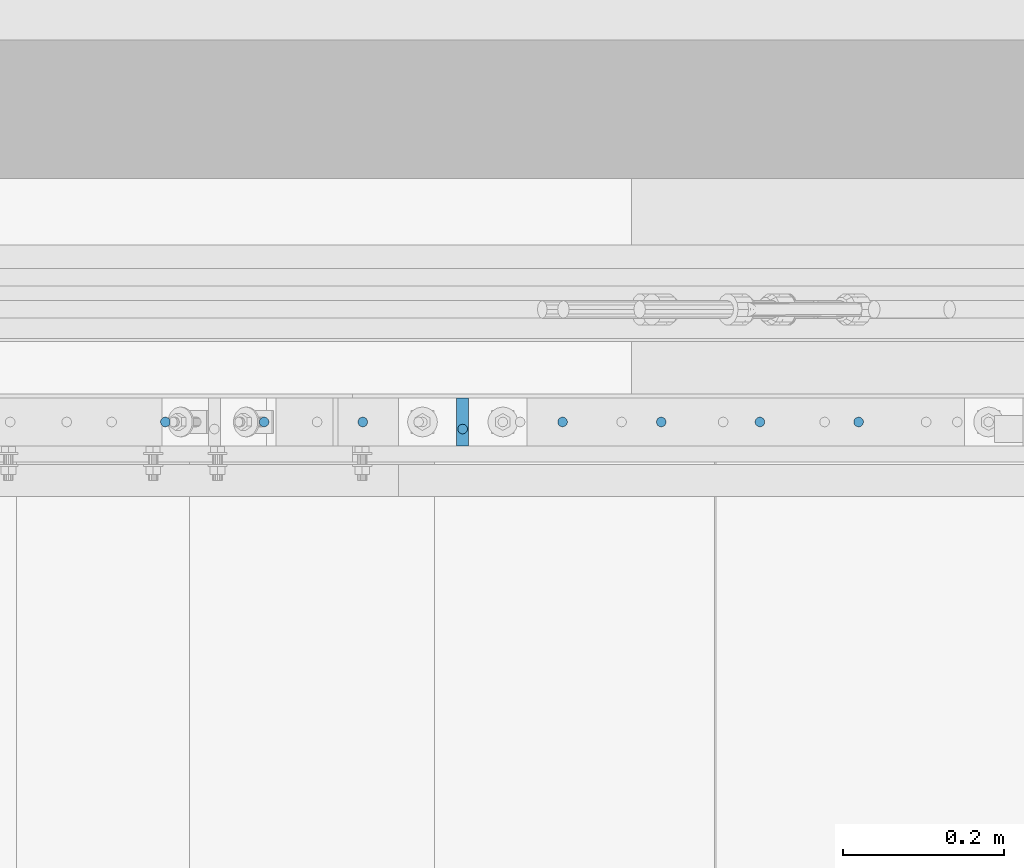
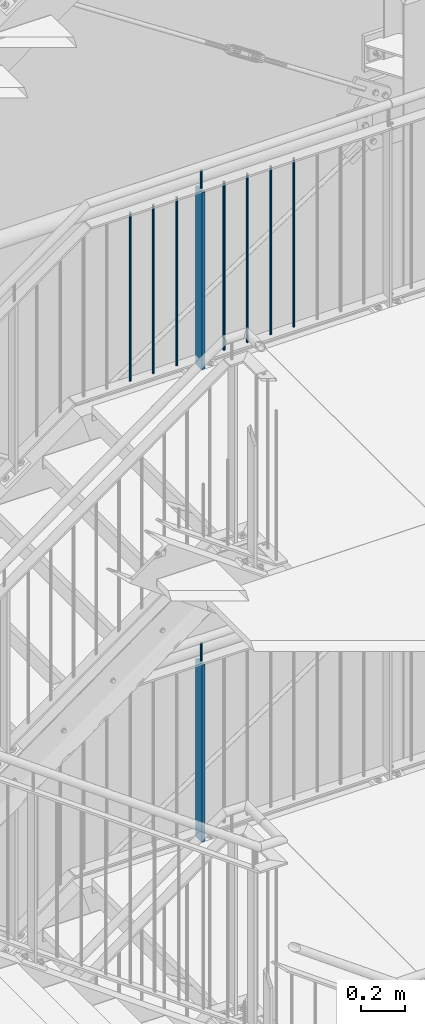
# One storey, part 109 of 831: 11 columns.
"""IFC2X3 building model written with IfcOpenShell, lengths in millimetres."""

from ifc_helpers import new_model, entity, si_unit, converted_unit, frame, origin, origin_with_axes, origin_2d, place, context, project, spatial, rectangle, circle, extrude, clip, halfspace, material, element, save


model = new_model("IFC2X3")

# Units and contexts
model_context = context("Model", 3, precision=1e-09, world=origin_with_axes())
ifc_project = project(units=[si_unit("LENGTHUNIT", "METRE", prefix="MILLI"), si_unit("AREAUNIT", "SQUARE_METRE"), si_unit("VOLUMEUNIT", "CUBIC_METRE"), converted_unit("PLANEANGLEUNIT", "DEGREE", entity("IfcPlaneAngleMeasure", 0.01745329), si_unit("PLANEANGLEUNIT", "RADIAN"), dimensions=[0, 0, 0, 0, 0, 0, 0])], contexts=[model_context])

# Site, building, storey
site_placement = place(None, origin_with_axes())
site = spatial("IfcSite", under=ifc_project, at=site_placement, Name="Site", CompositionType="ELEMENT")
building_placement = place(site_placement, origin_with_axes())
building = spatial("IfcBuilding", under=site, at=building_placement, Name="Struktur 1", CompositionType="ELEMENT")
storey_placement = place(building_placement, origin_with_axes())
storey = spatial("IfcBuildingStorey", under=building, at=storey_placement, Name="Default Storey", CompositionType="ELEMENT", Elevation=0.0)

# Columns
ifc_material = material(Name="S235JR")
column_1_placement = place(None, frame((7656.713831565, 7347.936971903, 9763.285281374), z_axis=(0.0, 0.0, 1.0), x_axis=(0.0, -1.0, 0.0)))
element("IfcColumn", 1, at=column_1_placement, inside=storey, material=ifc_material, Name="Bar#3", ObjectType="Bar#3", context=model_context, shape_type="Clipping", body=[
    clip(clip(extrude(circle(Radius=6.0, at=origin_2d()), origin(), (0.0, 0.0, -1.0), 116.970562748), halfspace(frame((7347.936971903, -7656.713831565, -8.486281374), z_axis=(0.0, 0.0, -1.0), x_axis=(0.0, -1.0, 0.0)), True)), halfspace(frame((7347.936971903, -7656.713831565, -108.484281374), z_axis=(0.0, 0.0, 1.0), x_axis=(0.0, 1.0, 0.0)), True)),
])
for number, where, z_axis, x_axis, name in (
    (2, (7656.713831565, 7356.736971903, 9675.723292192), (0.0, 0.0, 1.0), (1.0, 0.0, 0.0), "Railing_Post_Landing#3"),
    (3, (7656.713831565, 7356.736971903, 12305.223292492), (0.0, 0.0, 1.0), (1.0, 0.0, 0.0), "Railing_Post_Landing#3"),
):
    element("IfcColumn", number, at=place(None, frame(where, z_axis=z_axis, x_axis=x_axis)), inside=storey, material=ifc_material, Name=name, ObjectType="Railing_Post_Landing#3", context=model_context, shape_type="Clipping", body=[
        clip(clip(extrude(rectangle(XDim=15.0, YDim=60.0, at=origin_2d()), origin(), (0.0, 0.0, -1.0), 1070.646584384), halfspace(frame((-7656.713831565, -7356.736971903, -1019.722292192), z_axis=(0.0, 0.0, 1.0), x_axis=(1.0, 0.0, 0.0)), True)), halfspace(frame((-7656.713831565, -7356.736971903, -30.924292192), z_axis=(0.0, 0.0, -1.0), x_axis=(-1.0, 0.0, 0.0)), True)),
    ])
column_2_placement = place(None, frame((7286.963783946, 7356.736971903, 12287.785281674), z_axis=(0.0, 0.0, 1.0), x_axis=(1.0, 0.0, 0.0)))
element("IfcColumn", 4, at=column_2_placement, inside=storey, material=ifc_material, Name="Railing_Picket_Landing#18", ObjectType="Railing_Picket_Landing#18", context=model_context, shape_type="Clipping", body=[
    clip(clip(extrude(circle(Radius=6.0, at=origin_2d()), origin(), (0.0, 0.0, -1.0), 965.770562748), halfspace(frame((-7286.963783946, -7356.736971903, -13.486281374), z_axis=(0.0, 0.0, -1.0), x_axis=(-1.0, 0.0, 0.0)), True)), halfspace(frame((-7286.963783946, -7356.736971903, -952.284281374), z_axis=(0.0, 0.0, 1.0), x_axis=(1.0, 0.0, 0.0)), True)),
])
column_3_placement = place(None, frame((7409.713807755, 7356.736971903, 12287.785281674), z_axis=(0.0, 0.0, 1.0), x_axis=(1.0, 0.0, 0.0)))
element("IfcColumn", 5, at=column_3_placement, inside=storey, material=ifc_material, Name="Railing_Picket_Landing#19", ObjectType="Railing_Picket_Landing#19", context=model_context, shape_type="Clipping", body=[
    clip(clip(extrude(circle(Radius=6.0, at=origin_2d()), origin(), (0.0, 0.0, -1.0), 965.770562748), halfspace(frame((-7409.713807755, -7356.736971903, -13.486281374), z_axis=(0.0, 0.0, -1.0), x_axis=(-1.0, 0.0, 0.0)), True)), halfspace(frame((-7409.713807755, -7356.736971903, -952.284281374), z_axis=(0.0, 0.0, 1.0), x_axis=(1.0, 0.0, 0.0)), True)),
])
column_4_placement = place(None, frame((7532.463831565, 7356.736971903, 12287.785281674), z_axis=(0.0, 0.0, 1.0), x_axis=(1.0, 0.0, 0.0)))
element("IfcColumn", 6, at=column_4_placement, inside=storey, material=ifc_material, Name="Railing_Picket_Landing#20", ObjectType="Railing_Picket_Landing#20", context=model_context, shape_type="Clipping", body=[
    clip(clip(extrude(circle(Radius=6.0, at=origin_2d()), origin(), (0.0, 0.0, -1.0), 965.770562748), halfspace(frame((-7532.463831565, -7356.736971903, -13.486281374), z_axis=(0.0, 0.0, -1.0), x_axis=(-1.0, 0.0, 0.0)), True)), halfspace(frame((-7532.463831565, -7356.736971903, -952.284281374), z_axis=(0.0, 0.0, 1.0), x_axis=(1.0, 0.0, 0.0)), True)),
])
column_5_placement = place(None, frame((7780.963831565, 7356.736971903, 12287.785281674), z_axis=(0.0, 0.0, 1.0), x_axis=(1.0, 0.0, 0.0)))
element("IfcColumn", 7, at=column_5_placement, inside=storey, material=ifc_material, Name="Railing_Picket_Landing#21", ObjectType="Railing_Picket_Landing#21", context=model_context, shape_type="Clipping", body=[
    clip(clip(extrude(circle(Radius=6.0, at=origin_2d()), origin(), (0.0, 0.0, -1.0), 965.770562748), halfspace(frame((-7780.963831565, -7356.736971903, -13.486281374), z_axis=(0.0, 0.0, -1.0), x_axis=(-1.0, 0.0, 0.0)), True)), halfspace(frame((-7780.963831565, -7356.736971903, -952.284281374), z_axis=(0.0, 0.0, 1.0), x_axis=(1.0, 0.0, 0.0)), True)),
])
column_6_placement = place(None, frame((7903.713855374, 7356.736971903, 12287.785281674), z_axis=(0.0, 0.0, 1.0), x_axis=(1.0, 0.0, 0.0)))
element("IfcColumn", 8, at=column_6_placement, inside=storey, material=ifc_material, Name="Railing_Picket_Landing#22", ObjectType="Railing_Picket_Landing#22", context=model_context, shape_type="Clipping", body=[
    clip(clip(extrude(circle(Radius=6.0, at=origin_2d()), origin(), (0.0, 0.0, -1.0), 965.770562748), halfspace(frame((-7903.713855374, -7356.736971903, -13.486281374), z_axis=(0.0, 0.0, -1.0), x_axis=(-1.0, 0.0, 0.0)), True)), halfspace(frame((-7903.713855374, -7356.736971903, -952.284281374), z_axis=(0.0, 0.0, 1.0), x_axis=(1.0, 0.0, 0.0)), True)),
])
column_7_placement = place(None, frame((8026.463879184, 7356.736971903, 12287.785281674), z_axis=(0.0, 0.0, 1.0), x_axis=(1.0, 0.0, 0.0)))
element("IfcColumn", 9, at=column_7_placement, inside=storey, material=ifc_material, Name="Railing_Picket_Landing#23", ObjectType="Railing_Picket_Landing#23", context=model_context, shape_type="Clipping", body=[
    clip(clip(extrude(circle(Radius=6.0, at=origin_2d()), origin(), (0.0, 0.0, -1.0), 965.770562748), halfspace(frame((-8026.463879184, -7356.736971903, -13.486281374), z_axis=(0.0, 0.0, -1.0), x_axis=(-1.0, 0.0, 0.0)), True)), halfspace(frame((-8026.463879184, -7356.736971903, -952.284281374), z_axis=(0.0, 0.0, 1.0), x_axis=(1.0, 0.0, 0.0)), True)),
])
column_8_placement = place(None, frame((8149.213902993, 7356.736971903, 12287.785281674), z_axis=(0.0, 0.0, 1.0), x_axis=(1.0, 0.0, 0.0)))
element("IfcColumn", 10, at=column_8_placement, inside=storey, material=ifc_material, Name="Railing_Picket_Landing#24", ObjectType="Railing_Picket_Landing#24", context=model_context, shape_type="Clipping", body=[
    clip(clip(extrude(circle(Radius=6.0, at=origin_2d()), origin(), (0.0, 0.0, -1.0), 965.770562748), halfspace(frame((-8149.213902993, -7356.736971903, -13.486281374), z_axis=(0.0, 0.0, -1.0), x_axis=(-1.0, 0.0, 0.0)), True)), halfspace(frame((-8149.213902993, -7356.736971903, -952.284281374), z_axis=(0.0, 0.0, 1.0), x_axis=(1.0, 0.0, 0.0)), True)),
])
column_9_placement = place(None, frame((7656.713831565, 7347.936971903, 12392.785281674), z_axis=(0.0, 0.0, 1.0), x_axis=(0.0, -1.0, 0.0)))
element("IfcColumn", 11, at=column_9_placement, inside=storey, material=ifc_material, Name="Bar#3", ObjectType="Bar#3", context=model_context, shape_type="Clipping", body=[
    clip(clip(extrude(circle(Radius=6.0, at=origin_2d()), origin(), (0.0, 0.0, -1.0), 116.970562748), halfspace(frame((7347.936971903, -7656.713831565, -8.486281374), z_axis=(0.0, 0.0, -1.0), x_axis=(0.0, -1.0, 0.0)), True)), halfspace(frame((7347.936971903, -7656.713831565, -108.484281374), z_axis=(0.0, 0.0, 1.0), x_axis=(0.0, 1.0, 0.0)), True)),
])

save(model, "model.ifc")
